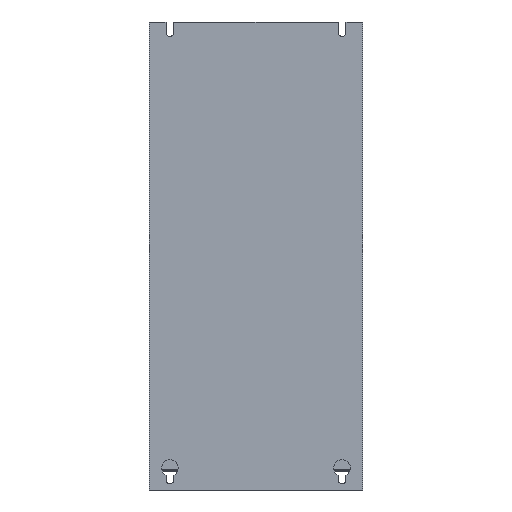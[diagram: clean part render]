
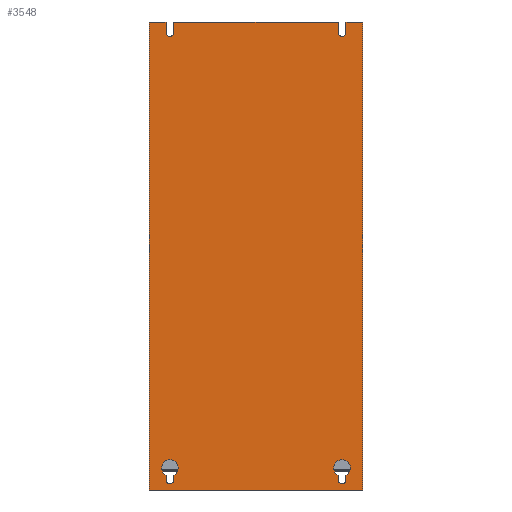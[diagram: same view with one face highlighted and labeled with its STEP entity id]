
A CAD part, front view. The second image highlights one B-rep face of the part: STEP entity #3548.
In plain terms, the highlighted planar face has unit normal (0, -1, 0).
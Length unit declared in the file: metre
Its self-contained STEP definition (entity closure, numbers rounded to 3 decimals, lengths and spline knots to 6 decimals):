
#3548=ADVANCED_FACE('',(#11004,#11005,#11006),#11007,.T.);
#11004=FACE_BOUND('',#24649,.T.);
#11005=FACE_OUTER_BOUND('',#24650,.T.);
#11006=FACE_BOUND('',#24651,.T.);
#11007=PLANE('',#24652);
#24649=EDGE_LOOP('',(#44954,#44955,#44956,#44957,#44958));
#24650=EDGE_LOOP('',(#44959,#44960,#44961,#44962,#44963,#44964,#44965,#44966,#44967,#44968,#44969,#44970));
#24651=EDGE_LOOP('',(#44971,#44972,#44973,#44974,#44975));
#24652=AXIS2_PLACEMENT_3D('',#44976,#44977,#44978);
#44954=ORIENTED_EDGE('',*,*,#88953,.T.);
#44955=ORIENTED_EDGE('',*,*,#89241,.T.);
#44956=ORIENTED_EDGE('',*,*,#89258,.T.);
#44957=ORIENTED_EDGE('',*,*,#89257,.T.);
#44958=ORIENTED_EDGE('',*,*,#89252,.T.);
#44959=ORIENTED_EDGE('',*,*,#91661,.T.);
#44960=ORIENTED_EDGE('',*,*,#89209,.F.);
#44961=ORIENTED_EDGE('',*,*,#89954,.F.);
#44962=ORIENTED_EDGE('',*,*,#89991,.T.);
#44963=ORIENTED_EDGE('',*,*,#89988,.T.);
#44964=ORIENTED_EDGE('',*,*,#89985,.F.);
#44965=ORIENTED_EDGE('',*,*,#91662,.F.);
#44966=ORIENTED_EDGE('',*,*,#91663,.T.);
#44967=ORIENTED_EDGE('',*,*,#91664,.T.);
#44968=ORIENTED_EDGE('',*,*,#91665,.F.);
#44969=ORIENTED_EDGE('',*,*,#91666,.F.);
#44970=ORIENTED_EDGE('',*,*,#91667,.T.);
#44971=ORIENTED_EDGE('',*,*,#88738,.T.);
#44972=ORIENTED_EDGE('',*,*,#91668,.T.);
#44973=ORIENTED_EDGE('',*,*,#91669,.T.);
#44974=ORIENTED_EDGE('',*,*,#91670,.T.);
#44975=ORIENTED_EDGE('',*,*,#91671,.T.);
#44976=CARTESIAN_POINT('',(-0.155,0.0,0.34));
#44977=DIRECTION('',(0.0,-1.0,0.0));
#44978=DIRECTION('',(0.0,0.0,-1.0));
#88738=EDGE_CURVE('',#106404,#106401,#106405,.T.);
#88953=EDGE_CURVE('',#106822,#106819,#106823,.T.);
#89209=EDGE_CURVE('',#107260,#107262,#107263,.T.);
#89241=EDGE_CURVE('',#106819,#107309,#107311,.T.);
#89252=EDGE_CURVE('',#107324,#106822,#107325,.T.);
#89257=EDGE_CURVE('',#107329,#107324,#107333,.T.);
#89258=EDGE_CURVE('',#107309,#107329,#107334,.T.);
#89954=EDGE_CURVE('',#108505,#107260,#108508,.T.);
#89985=EDGE_CURVE('',#108556,#108559,#108560,.T.);
#89988=EDGE_CURVE('',#108564,#108559,#108565,.T.);
#89991=EDGE_CURVE('',#108505,#108564,#108569,.T.);
#91661=EDGE_CURVE('',#111339,#107262,#111340,.T.);
#91662=EDGE_CURVE('',#111341,#108556,#111342,.T.);
#91663=EDGE_CURVE('',#111341,#111343,#111344,.T.);
#91664=EDGE_CURVE('',#111343,#111345,#111346,.T.);
#91665=EDGE_CURVE('',#111347,#111345,#111348,.T.);
#91666=EDGE_CURVE('',#111349,#111347,#111350,.T.);
#91667=EDGE_CURVE('',#111349,#111339,#111351,.T.);
#91668=EDGE_CURVE('',#106401,#111352,#111353,.T.);
#91669=EDGE_CURVE('',#111352,#111354,#111355,.T.);
#91670=EDGE_CURVE('',#111354,#111356,#111357,.T.);
#91671=EDGE_CURVE('',#111356,#106404,#111358,.T.);
#106401=VERTEX_POINT('',#134713);
#106404=VERTEX_POINT('',#134717);
#106405=CIRCLE('',#134718,0.012);
#106819=VERTEX_POINT('',#135328);
#106822=VERTEX_POINT('',#135332);
#106823=CIRCLE('',#135333,0.012);
#107260=VERTEX_POINT('',#135975);
#107262=VERTEX_POINT('',#135978);
#107263=LINE('',#135979,#135980);
#107309=VERTEX_POINT('',#136037);
#107311=CIRCLE('',#136040,0.012);
#107324=VERTEX_POINT('',#136059);
#107325=LINE('',#136060,#136061);
#107329=VERTEX_POINT('',#136067);
#107333=CIRCLE('',#136072,0.00575);
#107334=LINE('',#136073,#136074);
#108505=VERTEX_POINT('',#137919);
#108508=LINE('',#137923,#137924);
#108556=VERTEX_POINT('',#138001);
#108559=VERTEX_POINT('',#138005);
#108560=LINE('',#138006,#138007);
#108564=VERTEX_POINT('',#138013);
#108565=CIRCLE('',#138014,0.00575);
#108569=LINE('',#138019,#138020);
#111339=VERTEX_POINT('',#142404);
#111340=LINE('',#142405,#142406);
#111341=VERTEX_POINT('',#142407);
#111342=LINE('',#142408,#142409);
#111343=VERTEX_POINT('',#142410);
#111344=LINE('',#142411,#142412);
#111345=VERTEX_POINT('',#142413);
#111346=CIRCLE('',#142414,0.00575);
#111347=VERTEX_POINT('',#142415);
#111348=LINE('',#142416,#142417);
#111349=VERTEX_POINT('',#142418);
#111350=LINE('',#142419,#142420);
#111351=LINE('',#142421,#142422);
#111352=VERTEX_POINT('',#142423);
#111353=CIRCLE('',#142424,0.012);
#111354=VERTEX_POINT('',#142425);
#111355=LINE('',#142426,#142427);
#111356=VERTEX_POINT('',#142428);
#111357=CIRCLE('',#142429,0.00575);
#111358=LINE('',#142430,#142431);
#134713=CARTESIAN_POINT('',(-0.11925,0.0,-0.297467));
#134717=CARTESIAN_POINT('',(-0.13075,0.0,-0.318533));
#134718=AXIS2_PLACEMENT_3D('',#176938,#176939,#176940);
#135328=CARTESIAN_POINT('',(0.13075,0.0,-0.297467));
#135332=CARTESIAN_POINT('',(0.11925,0.0,-0.318533));
#135333=AXIS2_PLACEMENT_3D('',#177384,#177385,#177386);
#135975=CARTESIAN_POINT('',(0.155,0.0,0.34));
#135978=CARTESIAN_POINT('',(0.155,0.0,-0.34));
#135979=CARTESIAN_POINT('',(0.155,0.0,0.34));
#135980=VECTOR('',#177740,0.68);
#136037=CARTESIAN_POINT('',(0.13075,0.0,-0.318533));
#136040=AXIS2_PLACEMENT_3D('',#177810,#177811,#177812);
#136059=CARTESIAN_POINT('',(0.11925,0.0,-0.325));
#136060=CARTESIAN_POINT('',(0.11925,0.0,-0.325));
#136061=VECTOR('',#177831,0.006467);
#136067=CARTESIAN_POINT('',(0.13075,0.0,-0.325));
#136072=AXIS2_PLACEMENT_3D('',#177838,#177839,#177840);
#136073=CARTESIAN_POINT('',(0.13075,0.0,-0.318533));
#136074=VECTOR('',#177841,0.006467);
#137919=CARTESIAN_POINT('',(0.13075,0.0,0.34));
#137923=CARTESIAN_POINT('',(0.13075,0.0,0.34));
#137924=VECTOR('',#178577,0.02425);
#138001=CARTESIAN_POINT('',(0.11925,0.0,0.34));
#138005=CARTESIAN_POINT('',(0.11925,0.0,0.325));
#138006=CARTESIAN_POINT('',(0.11925,0.0,0.34));
#138007=VECTOR('',#178608,0.015);
#138013=CARTESIAN_POINT('',(0.13075,0.0,0.325));
#138014=AXIS2_PLACEMENT_3D('',#178611,#178612,#178613);
#138019=CARTESIAN_POINT('',(0.13075,0.0,0.34));
#138020=VECTOR('',#178618,0.015);
#142404=CARTESIAN_POINT('',(-0.155,0.0,-0.34));
#142405=CARTESIAN_POINT('',(-0.155,0.0,-0.34));
#142406=VECTOR('',#180468,0.31);
#142407=CARTESIAN_POINT('',(-0.11925,0.0,0.34));
#142408=CARTESIAN_POINT('',(-0.11925,0.0,0.34));
#142409=VECTOR('',#180469,0.2385);
#142410=CARTESIAN_POINT('',(-0.11925,0.0,0.325));
#142411=CARTESIAN_POINT('',(-0.11925,0.0,0.34));
#142412=VECTOR('',#180470,0.015);
#142413=CARTESIAN_POINT('',(-0.13075,0.0,0.325));
#142414=AXIS2_PLACEMENT_3D('',#180471,#180472,#180473);
#142415=CARTESIAN_POINT('',(-0.13075,0.0,0.34));
#142416=CARTESIAN_POINT('',(-0.13075,0.0,0.34));
#142417=VECTOR('',#180474,0.015);
#142418=CARTESIAN_POINT('',(-0.155,0.0,0.34));
#142419=CARTESIAN_POINT('',(-0.155,0.0,0.34));
#142420=VECTOR('',#180475,0.02425);
#142421=CARTESIAN_POINT('',(-0.155,0.0,0.34));
#142422=VECTOR('',#180476,0.68);
#142423=CARTESIAN_POINT('',(-0.11925,0.0,-0.318533));
#142424=AXIS2_PLACEMENT_3D('',#180477,#180478,#180479);
#142425=CARTESIAN_POINT('',(-0.11925,0.0,-0.325));
#142426=CARTESIAN_POINT('',(-0.11925,0.0,-0.318533));
#142427=VECTOR('',#180480,0.006467);
#142428=CARTESIAN_POINT('',(-0.13075,0.0,-0.325));
#142429=AXIS2_PLACEMENT_3D('',#180481,#180482,#180483);
#142430=CARTESIAN_POINT('',(-0.13075,0.0,-0.325));
#142431=VECTOR('',#180484,0.006467);
#176938=CARTESIAN_POINT('',(-0.125,0.0,-0.308));
#176939=DIRECTION('',(0.0,1.0,0.0));
#176940=DIRECTION('',(-0.479,0.0,-0.878));
#177384=CARTESIAN_POINT('',(0.125,0.0,-0.308));
#177385=DIRECTION('',(0.0,1.0,0.0));
#177386=DIRECTION('',(-0.479,0.0,-0.878));
#177740=DIRECTION('',(0.0,0.0,-1.0));
#177810=CARTESIAN_POINT('',(0.125,0.0,-0.308));
#177811=DIRECTION('',(0.0,1.0,0.0));
#177812=DIRECTION('',(-0.479,0.0,-0.878));
#177831=DIRECTION('',(0.0,0.0,1.0));
#177838=CARTESIAN_POINT('',(0.125,0.0,-0.325));
#177839=DIRECTION('',(-0.0,1.0,0.0));
#177840=DIRECTION('',(1.0,0.0,0.0));
#177841=DIRECTION('',(0.,0.0,-1.0));
#178577=DIRECTION('',(1.0,0.0,0.0));
#178608=DIRECTION('',(0.0,0.0,-1.0));
#178611=CARTESIAN_POINT('',(0.125,0.0,0.325));
#178612=DIRECTION('',(-0.0,1.0,0.0));
#178613=DIRECTION('',(1.0,0.0,0.0));
#178618=DIRECTION('',(0.0,0.0,-1.0));
#180468=DIRECTION('',(1.0,0.0,0.0));
#180469=DIRECTION('',(1.0,0.0,0.0));
#180470=DIRECTION('',(0.0,0.0,-1.0));
#180471=CARTESIAN_POINT('',(-0.125,0.0,0.325));
#180472=DIRECTION('',(-0.0,1.0,0.0));
#180473=DIRECTION('',(1.0,0.0,0.0));
#180474=DIRECTION('',(0.0,0.0,-1.0));
#180475=DIRECTION('',(1.0,0.0,0.0));
#180476=DIRECTION('',(0.0,0.0,-1.0));
#180477=CARTESIAN_POINT('',(-0.125,0.0,-0.308));
#180478=DIRECTION('',(0.0,1.0,0.0));
#180479=DIRECTION('',(-0.479,0.0,-0.878));
#180480=DIRECTION('',(0.,0.0,-1.0));
#180481=CARTESIAN_POINT('',(-0.125,0.0,-0.325));
#180482=DIRECTION('',(-0.0,1.0,0.0));
#180483=DIRECTION('',(1.0,0.0,0.0));
#180484=DIRECTION('',(0.0,0.0,1.0));
